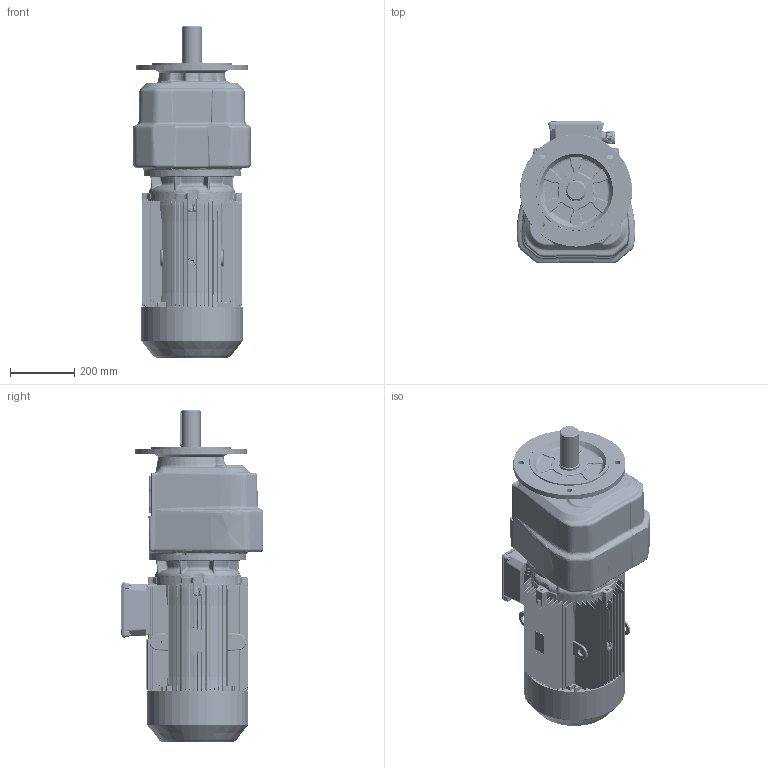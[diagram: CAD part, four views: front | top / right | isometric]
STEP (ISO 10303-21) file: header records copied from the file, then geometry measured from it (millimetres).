
FILE_DESCRIPTION (( 'STEP AP203' ), '1' );
FILE_NAME ('IRFM 93-160 L.step', '2023-12-02T22:12:34', ( '' ), ( '' ), 'SwSTEP 2.0', 'SolidWorks 2022', '' );
FILE_SCHEMA (( 'CONFIG_CONTROL_DESIGN' ));
Products named in the file (5): MBK 160 IE3 GMK İR93, İRK103, YP103, İRC93; IRFM 93-160 L; 15kW_160_L_B9 - Standart; Şase_Ø300; IRF 93-Ø350 Std-
Assembly tree (4 placements, depth 2):
  IRFM 93-160 L
    Şase_Ø300
    IRF 93-Ø350 Std-
    MBK 160 IE3 GMK İR93, İRK103, YP103, İRC93
    15kW_160_L_B9 - Standart
Bounding box: 369.43 x 443.09 x 1034 mm (x, y, z)
Volume: 70883985.9 mm3; surface area: 2873439 mm2
Topology: 4 solids, 10 shells, 10261 faces, 27989 edges, 17866 vertices
Faces by surface type: plane 5136, bspline 2464, cylinder 1685, cone 434, torus 380, sphere 162
Entity records: 450666 total; most frequent: CARTESIAN_POINT 213325, ORIENTED_EDGE 55516, DIRECTION 40068, EDGE_CURVE 27758, VERTEX_POINT 17790, VECTOR 16278, LINE 16278, AXIS2_PLACEMENT_3D 11895
